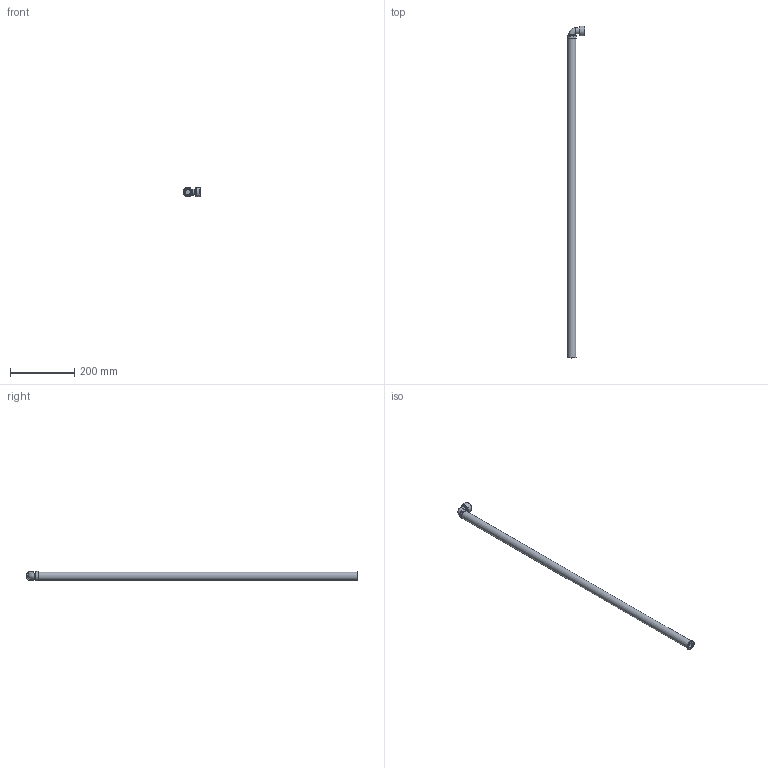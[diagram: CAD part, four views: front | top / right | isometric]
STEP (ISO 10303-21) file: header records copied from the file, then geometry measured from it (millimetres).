
FILE_DESCRIPTION( ( 'STEP AP203' ), '1' );
FILE_NAME( 'C:/Temp/Ganter_Step_05_03_2020/data/3_5/gn880_1/gn880_1_ans_abl/gn_880_1_c/Connector piece with drain hose GN 880.1-26-C-1000-T.stp', '2020-03-12T13:42:35', ( 'License CC BY-ND 4.0' ), ( 'CADENAS' ), ' ', 'PARTsolutions', ' ' );
FILE_SCHEMA( ( 'CONFIG_CONTROL_DESIGN' ) );
Length unit declared in the file: millimetre
Products named in the file (6): Connector piece with drain hose GN 880.1-26-C-1000-T; _Anschlussstueck mit Ablassschlauch GN 880.1-26-C-1000-T_a; _Anschlussstueck mit Ablassschlauch GN 880.1-26-C-1000-T_s; _Anschlussstueck mit Ablassschlauch GN 880.1-26-C-1000-T_dk; _Anschlussstueck mit Ablassschlauch GN 880.1-26-C-1000-T_sc; _Anschlussstueck mit Ablassschlauch GN 880.1-26-C-1000-T_dk2
Assembly tree (5 placements, depth 2):
  Connector piece with drain hose GN 880.1-26-C-1000-T
    _Anschlussstueck mit Ablassschlauch GN 880.1-26-C-1000-T_a
    _Anschlussstueck mit Ablassschlauch GN 880.1-26-C-1000-T_s
    _Anschlussstueck mit Ablassschlauch GN 880.1-26-C-1000-T_dk
    _Anschlussstueck mit Ablassschlauch GN 880.1-26-C-1000-T_sc
    _Anschlussstueck mit Ablassschlauch GN 880.1-26-C-1000-T_dk2
Bounding box: 55.5 x 1030.5 x 31 mm (x, y, z)
Volume: 220889.5 mm3; surface area: 154228.4 mm2
Topology: 5 solids, 5 shells, 60 faces, 110 edges, 71 vertices
Faces by surface type: plane 27, cylinder 25, torus 5, cone 3
Full cylindrical faces by diameter (mm): 11.5 x1, 12.9 x1, 13 x2, 16.4 x1, 17 x2, 19 x6, 22 x1, 24.376 x1, 25 x2, 30 x2
Entity records: 1557 total; most frequent: DIRECTION 270, CARTESIAN_POINT 217, ORIENTED_EDGE 162, AXIS2_PLACEMENT_3D 123, EDGE_LOOP 106, FACE_OUTER_BOUND 84, EDGE_CURVE 81, VERTEX_POINT 70
